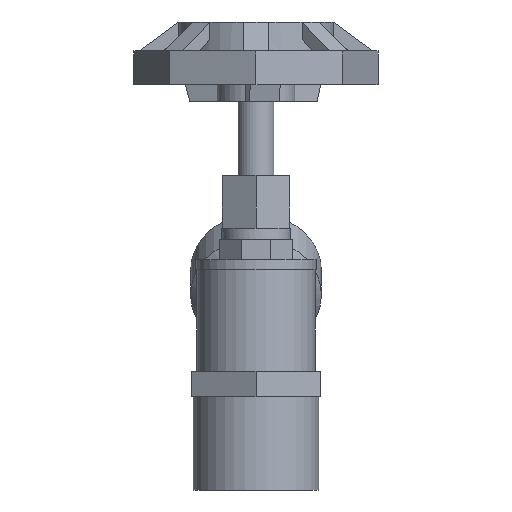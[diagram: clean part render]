
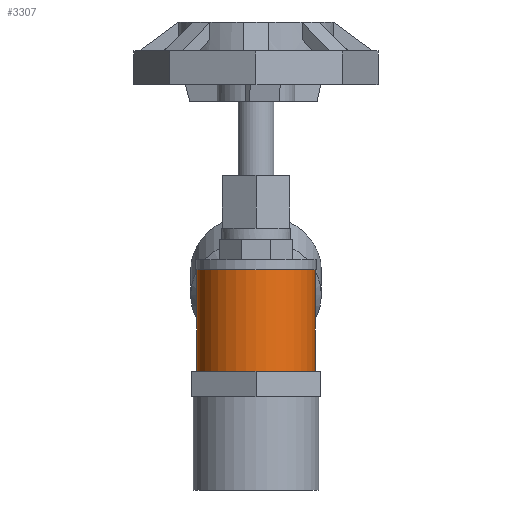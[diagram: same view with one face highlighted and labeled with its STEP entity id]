
A CAD part, left-side view. The second image highlights one B-rep face of the part: STEP entity #3307.
In plain terms, the highlighted cylindrical face has radius 0.47 mm (diameter 0.94 mm), a full revolution.
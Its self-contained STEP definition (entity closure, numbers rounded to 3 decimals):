
#3307 = ADVANCED_FACE('',(#3308),#3321,.T.);
#3308 = FACE_BOUND('',#3309,.T.);
#3309 = EDGE_LOOP('',(#3310,#3332,#3354,#3369));
#3310 = ORIENTED_EDGE('',*,*,#3311,.F.);
#3311 = EDGE_CURVE('',#3312,#3312,#3314,.T.);
#3312 = VERTEX_POINT('',#3313);
#3313 = CARTESIAN_POINT('',(0.47,0.,1.75));
#3314 = SURFACE_CURVE('',#3315,(#3320),.PCURVE_S1.);
#3315 = CIRCLE('',#3316,0.47);
#3316 = AXIS2_PLACEMENT_3D('',#3317,#3318,#3319);
#3317 = CARTESIAN_POINT('',(0.,0.,1.75)
  );
#3318 = DIRECTION('',(0.,0.,1.));
#3319 = DIRECTION('',(1.,0.,-0.));
#3320 = PCURVE('',#3321,#3326);
#3321 = CYLINDRICAL_SURFACE('',#3322,0.47);
#3322 = AXIS2_PLACEMENT_3D('',#3323,#3324,#3325);
#3323 = CARTESIAN_POINT('',(0.,0.,0.945
    ));
#3324 = DIRECTION('',(0.,0.,1.));
#3325 = DIRECTION('',(1.,0.,-0.));
#3326 = DEFINITIONAL_REPRESENTATION('',(#3327),#3331);
#3327 = LINE('',#3328,#3329);
#3328 = CARTESIAN_POINT('',(0.,0.805));
#3329 = VECTOR('',#3330,1.);
#3330 = DIRECTION('',(1.,0.));
#3331 = ( GEOMETRIC_REPRESENTATION_CONTEXT(2) 
PARAMETRIC_REPRESENTATION_CONTEXT() REPRESENTATION_CONTEXT('2D SPACE',''
  ) );
#3332 = ORIENTED_EDGE('',*,*,#3333,.F.);
#3333 = EDGE_CURVE('',#3334,#3312,#3336,.T.);
#3334 = VERTEX_POINT('',#3335);
#3335 = CARTESIAN_POINT('',(0.47,0.,0.945));
#3336 = SEAM_CURVE('',#3337,(#3340,#3347),.PCURVE_S1.);
#3337 = B_SPLINE_CURVE_WITH_KNOTS('',1,(#3338,#3339),.UNSPECIFIED.,.F.,
  .F.,(2,2),(0.,0.805),.PIECEWISE_BEZIER_KNOTS.);
#3338 = CARTESIAN_POINT('',(0.47,0.,0.945));
#3339 = CARTESIAN_POINT('',(0.47,0.,1.75));
#3340 = PCURVE('',#3321,#3341);
#3341 = DEFINITIONAL_REPRESENTATION('',(#3342),#3346);
#3342 = LINE('',#3343,#3344);
#3343 = CARTESIAN_POINT('',(0.,0.));
#3344 = VECTOR('',#3345,1.);
#3345 = DIRECTION('',(0.,1.));
#3346 = ( GEOMETRIC_REPRESENTATION_CONTEXT(2) 
PARAMETRIC_REPRESENTATION_CONTEXT() REPRESENTATION_CONTEXT('2D SPACE',''
  ) );
#3347 = PCURVE('',#3321,#3348);
#3348 = DEFINITIONAL_REPRESENTATION('',(#3349),#3353);
#3349 = LINE('',#3350,#3351);
#3350 = CARTESIAN_POINT('',(6.283,0.));
#3351 = VECTOR('',#3352,1.);
#3352 = DIRECTION('',(0.,1.));
#3353 = ( GEOMETRIC_REPRESENTATION_CONTEXT(2) 
PARAMETRIC_REPRESENTATION_CONTEXT() REPRESENTATION_CONTEXT('2D SPACE',''
  ) );
#3354 = ORIENTED_EDGE('',*,*,#3355,.T.);
#3355 = EDGE_CURVE('',#3334,#3334,#3356,.T.);
#3356 = SURFACE_CURVE('',#3357,(#3362),.PCURVE_S1.);
#3357 = CIRCLE('',#3358,0.47);
#3358 = AXIS2_PLACEMENT_3D('',#3359,#3360,#3361);
#3359 = CARTESIAN_POINT('',(0.,0.,0.945
    ));
#3360 = DIRECTION('',(0.,0.,1.));
#3361 = DIRECTION('',(1.,0.,-0.));
#3362 = PCURVE('',#3321,#3363);
#3363 = DEFINITIONAL_REPRESENTATION('',(#3364),#3368);
#3364 = LINE('',#3365,#3366);
#3365 = CARTESIAN_POINT('',(0.,0.));
#3366 = VECTOR('',#3367,1.);
#3367 = DIRECTION('',(1.,0.));
#3368 = ( GEOMETRIC_REPRESENTATION_CONTEXT(2) 
PARAMETRIC_REPRESENTATION_CONTEXT() REPRESENTATION_CONTEXT('2D SPACE',''
  ) );
#3369 = ORIENTED_EDGE('',*,*,#3333,.T.);
